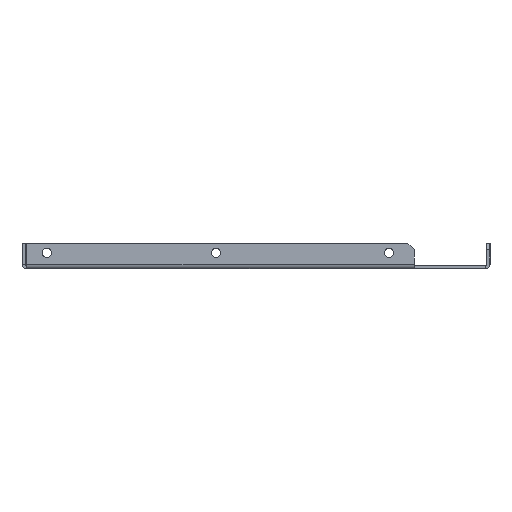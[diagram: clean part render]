
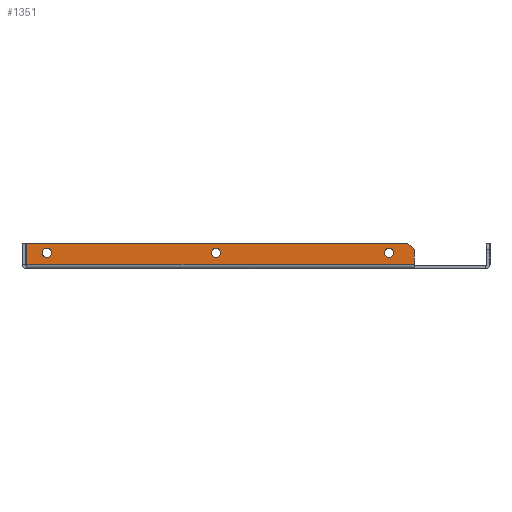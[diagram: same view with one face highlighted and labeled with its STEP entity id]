
A CAD part, left-side view. The second image highlights one B-rep face of the part: STEP entity #1351.
In plain terms, the highlighted planar face has unit normal (-1, 0, 0).
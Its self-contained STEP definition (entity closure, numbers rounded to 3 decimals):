
#306=CARTESIAN_POINT(' ',(-234.5,96.75,3.9));
#307=VERTEX_POINT(' ',#306);
#321=CARTESIAN_POINT(' ',(-234.5,96.75,6.));
#326=DIRECTION(' ',(-1.,0.,0.));
#331=DIRECTION(' ',(0.,0.,-1.));
#336=AXIS2_PLACEMENT_3D(' ',#321,#326,#331);
#341=CIRCLE('',#336,2.1);
#346=CARTESIAN_POINT(' ',(-234.5,96.75,8.1));
#347=VERTEX_POINT(' ',#346);
#351=EDGE_CURVE(' ',#307,#347,#341,.T.);
#891=CARTESIAN_POINT(' ',(-234.5,96.75,6.));
#896=DIRECTION(' ',(-1.,-0.,0.));
#901=DIRECTION(' ',(0.,0.,1.));
#906=AXIS2_PLACEMENT_3D(' ',#891,#896,#901);
#911=CIRCLE('',#906,2.1);
#916=EDGE_CURVE(' ',#347,#307,#911,.T.);
#941=DIRECTION(' ',(-1.,-0.,0.));
#946=CARTESIAN_POINT(' ',(-234.5,-73.25,10.5));
#951=DIRECTION(' ',(-0.,1.,0.));
#956=AXIS2_PLACEMENT_3D(' ',#946,#941,#951);
#961=PLANE('NONE',#956);
#966=CARTESIAN_POINT(' ',(-234.5,-73.25,7.5));
#971=DIRECTION(' ',(0.,0.,-1.));
#976=VECTOR(' ',#971,1.);
#981=LINE('',#966,#976);
#986=CARTESIAN_POINT(' ',(-234.5,-73.25,7.5));
#987=VERTEX_POINT(' ',#986);
#991=CARTESIAN_POINT(' ',(-234.5,-73.25,0.6));
#992=VERTEX_POINT(' ',#991);
#996=EDGE_CURVE(' ',#987,#992,#981,.T.);
#1001=ORIENTED_EDGE(' ',*,*,#996,.F.);
#1006=CARTESIAN_POINT(' ',(-234.5,-73.25,7.5));
#1011=DIRECTION(' ',(0.,0.707,0.707));
#1016=VECTOR(' ',#1011,1.);
#1021=LINE('',#1006,#1016);
#1026=CARTESIAN_POINT(' ',(-234.5,-70.25,10.5));
#1027=VERTEX_POINT(' ',#1026);
#1031=EDGE_CURVE(' ',#987,#1027,#1021,.T.);
#1036=ORIENTED_EDGE(' ',*,*,#1031,.T.);
#1041=CARTESIAN_POINT(' ',(-234.5,-70.25,10.5));
#1046=DIRECTION(' ',(0.,1.,0.));
#1051=VECTOR(' ',#1046,1.);
#1056=LINE('',#1041,#1051);
#1061=CARTESIAN_POINT(' ',(-234.5,106.043,10.5));
#1062=VERTEX_POINT(' ',#1061);
#1066=EDGE_CURVE(' ',#1027,#1062,#1056,.T.);
#1071=ORIENTED_EDGE(' ',*,*,#1066,.T.);
#1076=CARTESIAN_POINT(' ',(-234.5,106.043,0.6));
#1081=DIRECTION(' ',(0.,0.,1.));
#1086=VECTOR(' ',#1081,1.);
#1091=LINE('',#1076,#1086);
#1096=CARTESIAN_POINT(' ',(-234.5,106.043,0.6));
#1097=VERTEX_POINT(' ',#1096);
#1101=EDGE_CURVE(' ',#1097,#1062,#1091,.T.);
#1106=ORIENTED_EDGE(' ',*,*,#1101,.F.);
#1111=CARTESIAN_POINT(' ',(-234.5,-73.25,0.6));
#1116=DIRECTION(' ',(0.,1.,0.));
#1121=VECTOR(' ',#1116,1.);
#1126=LINE('',#1111,#1121);
#1131=EDGE_CURVE(' ',#992,#1097,#1126,.T.);
#1136=ORIENTED_EDGE(' ',*,*,#1131,.F.);
#1141=EDGE_LOOP(' ',(#1001,#1036,#1071,#1106,#1136));
#1146=FACE_OUTER_BOUND(' ',#1141,.T.);
#1151=ORIENTED_EDGE(' ',*,*,#916,.F.);
#1156=ORIENTED_EDGE(' ',*,*,#351,.F.);
#1161=EDGE_LOOP(' ',(#1151,#1156));
#1166=FACE_BOUND(' ',#1161,.T.);
#1171=CARTESIAN_POINT(' ',(-234.5,-61.5,6.));
#1176=DIRECTION(' ',(-1.,-0.,0.));
#1181=DIRECTION(' ',(0.,0.,1.));
#1186=AXIS2_PLACEMENT_3D(' ',#1171,#1176,#1181);
#1191=CIRCLE('',#1186,2.1);
#1196=CARTESIAN_POINT(' ',(-234.5,-61.5,8.1));
#1197=VERTEX_POINT(' ',#1196);
#1201=CARTESIAN_POINT(' ',(-234.5,-61.5,3.9));
#1202=VERTEX_POINT(' ',#1201);
#1206=EDGE_CURVE(' ',#1197,#1202,#1191,.T.);
#1211=ORIENTED_EDGE(' ',*,*,#1206,.F.);
#1216=CARTESIAN_POINT(' ',(-234.5,-61.5,6.));
#1221=DIRECTION(' ',(-1.,0.,0.));
#1226=DIRECTION(' ',(0.,0.,-1.));
#1231=AXIS2_PLACEMENT_3D(' ',#1216,#1221,#1226);
#1236=CIRCLE('',#1231,2.1);
#1241=EDGE_CURVE(' ',#1202,#1197,#1236,.T.);
#1246=ORIENTED_EDGE(' ',*,*,#1241,.F.);
#1251=EDGE_LOOP(' ',(#1211,#1246));
#1256=FACE_BOUND(' ',#1251,.T.);
#1261=CARTESIAN_POINT(' ',(-234.5,18.5,6.));
#1266=DIRECTION(' ',(-1.,0.,0.));
#1271=DIRECTION(' ',(0.,0.,1.));
#1276=AXIS2_PLACEMENT_3D(' ',#1261,#1266,#1271);
#1281=CIRCLE('',#1276,2.1);
#1286=CARTESIAN_POINT(' ',(-234.5,18.5,8.1));
#1287=VERTEX_POINT(' ',#1286);
#1291=CARTESIAN_POINT(' ',(-234.5,18.5,3.9));
#1292=VERTEX_POINT(' ',#1291);
#1296=EDGE_CURVE(' ',#1287,#1292,#1281,.T.);
#1301=ORIENTED_EDGE(' ',*,*,#1296,.F.);
#1306=CARTESIAN_POINT(' ',(-234.5,18.5,6.));
#1311=DIRECTION(' ',(-1.,0.,0.));
#1316=DIRECTION(' ',(0.,0.,-1.));
#1321=AXIS2_PLACEMENT_3D(' ',#1306,#1311,#1316);
#1326=CIRCLE('',#1321,2.1);
#1331=EDGE_CURVE(' ',#1292,#1287,#1326,.T.);
#1336=ORIENTED_EDGE(' ',*,*,#1331,.F.);
#1341=EDGE_LOOP(' ',(#1301,#1336));
#1346=FACE_BOUND(' ',#1341,.T.);
#1351=ADVANCED_FACE('NONE',(#1146,#1166,#1256,#1346),#961,.T.);
